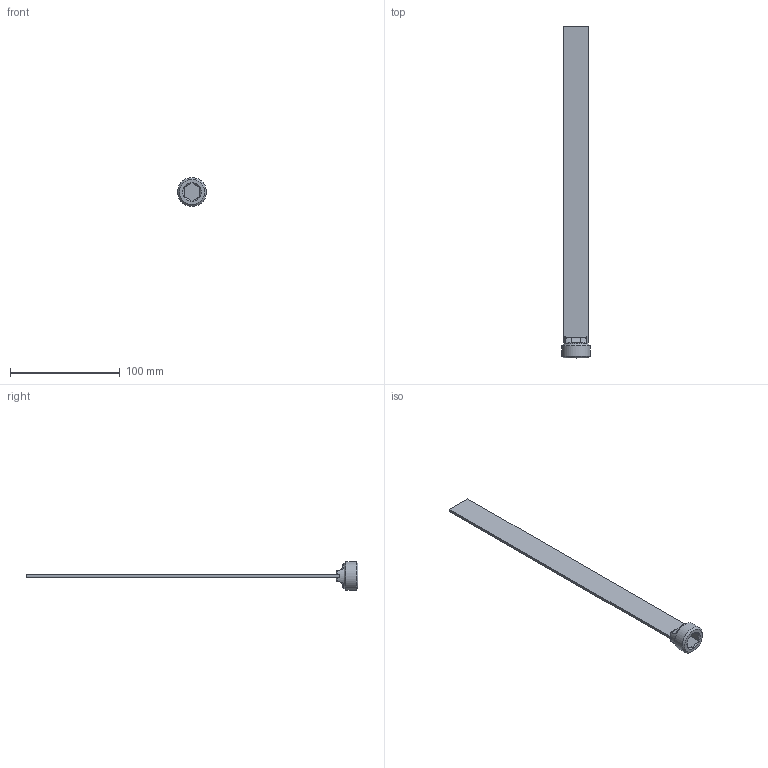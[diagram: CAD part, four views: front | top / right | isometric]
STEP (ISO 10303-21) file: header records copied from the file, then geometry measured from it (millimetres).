
FILE_DESCRIPTION(/* description */ (''),/* implementation_level */ '2;1');
FILE_NAME(/* name */ 'C:/Users/drich/Desktop/SB34X12BSP v1.step',/* time_stamp */ '2020-01-04T16:02:41-06:00',/* author */ (''),/* organization */ (''),/* preprocessor_version */ 'ST-DEVELOPER v18',/* originating_system */ 'Autodesk Translation Framework v8.12.0.6',/* authorisation */ '');
FILE_SCHEMA (('AUTOMOTIVE_DESIGN { 1 0 10303 214 3 1 1 }'));
Length unit declared in the file: inch
Products named in the file (1): SB34X12BSP
Bounding box: 26.3 x 303.15 x 26.3 mm (x, y, z)
Volume: 22057.8 mm3; surface area: 17624.9 mm2
Topology: 1 solids, 1 shells, 43 faces, 105 edges, 66 vertices
Faces by surface type: plane 22, cylinder 8, torus 6, bspline 4, cone 3
Full cylindrical faces by diameter (mm): 22.504 x1, 26.299 x1
Entity records: 1620 total; most frequent: CARTESIAN_POINT 608, ORIENTED_EDGE 210, DIRECTION 191, EDGE_CURVE 105, AXIS2_PLACEMENT_3D 72, VERTEX_POINT 66, LINE 47, VECTOR 47
